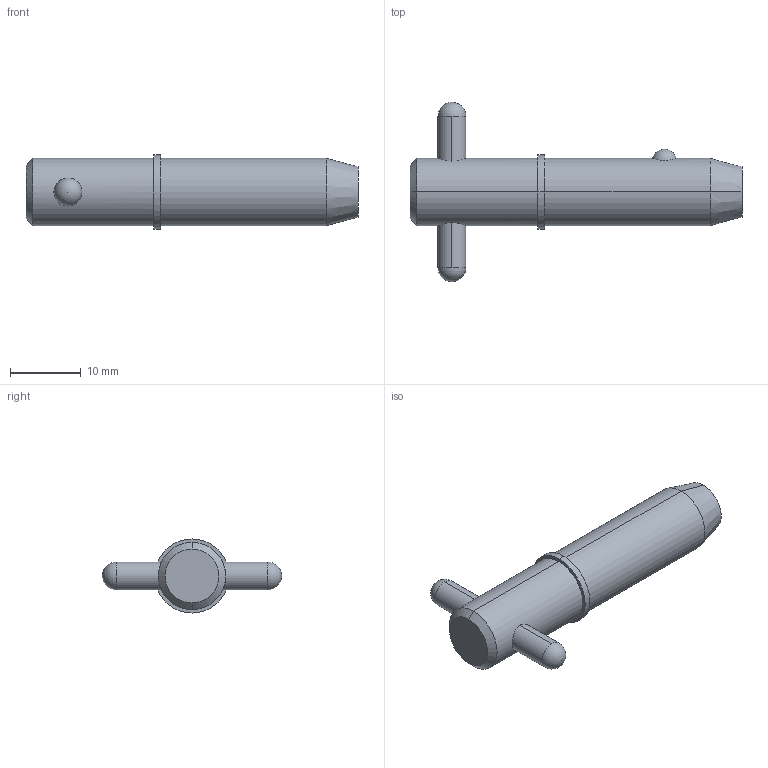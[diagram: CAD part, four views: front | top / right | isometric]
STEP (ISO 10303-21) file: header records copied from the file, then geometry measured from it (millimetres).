
FILE_DESCRIPTION (( 'STEP AP203' ), '1' );
FILE_NAME ('33018.W3706.step', '2024-11-19T17:10:39', ( '' ), ( '' ), 'SwSTEP 2.0', 'SolidWorks 2019', '' );
FILE_SCHEMA (( 'CONFIG_CONTROL_DESIGN' ));
Length unit declared in the file: millimetre
Products named in the file (3): 33018.W3706; Part2_33018.W3706; Part1_33018.W3706
Assembly tree (2 placements, depth 2):
  33018.W3706
    Part1_33018.W3706
    Part2_33018.W3706
Bounding box: 46.99 x 25.4 x 10.48 mm (x, y, z)
Volume: 3470.3 mm3; surface area: 1931.3 mm2
Topology: 2 solids, 2 shells, 22 faces, 47 edges, 30 vertices
Faces by surface type: cylinder 10, sphere 4, cone 4, plane 4
Entity records: 1023 total; most frequent: CARTESIAN_POINT 266, DIRECTION 110, ORIENTED_EDGE 82, AXIS2_PLACEMENT_3D 48, EDGE_CURVE 41, EDGE_LOOP 27, VERTEX_POINT 26, PERSON_AND_ORGANIZATION 26
